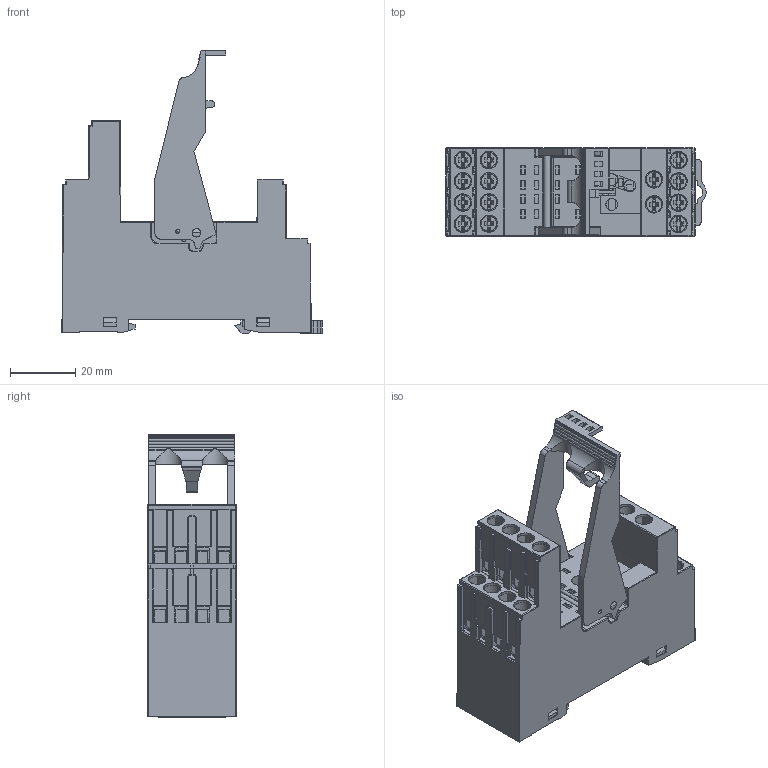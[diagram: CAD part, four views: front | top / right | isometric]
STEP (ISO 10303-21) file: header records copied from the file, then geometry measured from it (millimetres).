
FILE_DESCRIPTION(('STEP AP214'),'2;1');
FILE_NAME('complessivo 94843_catalogo.stp','2011-01-21T08:20:59',(''),(''),'2007.1.106','THINKDESIGN','');
FILE_SCHEMA(('AUTOMOTIVE_DESIGN'));
Products named in the file (1): None
Bounding box: 79.56 x 27 x 86.36 mm (x, y, z)
Surface area: 37976.1 mm2 (no closed solid volume)
Topology: 0 solids, 0 shells, 1364 faces, 7927 edges, 7862 vertices
Faces by surface type: plane 900, cylinder 338, bspline 126
Full cylindrical faces by diameter (mm): 1.2 x6, 1.3 x2, 2.5 x2, 2.6 x2, 3.1 x1, 3.6 x3, 4.6 x1, 4.7 x14, 5.1 x1, 5.3 x14, 5.4 x1
Entity records: 83337 total; most frequent: CARTESIAN_POINT 27800, DIRECTION 9581, COMPOSITE_CURVE_SEGMENT 7901, TRIMMED_CURVE 6476, VECTOR 5963, LINE 5963, AXIS2_PLACEMENT_3D 1809, OUTER_BOUNDARY_CURVE 1364
